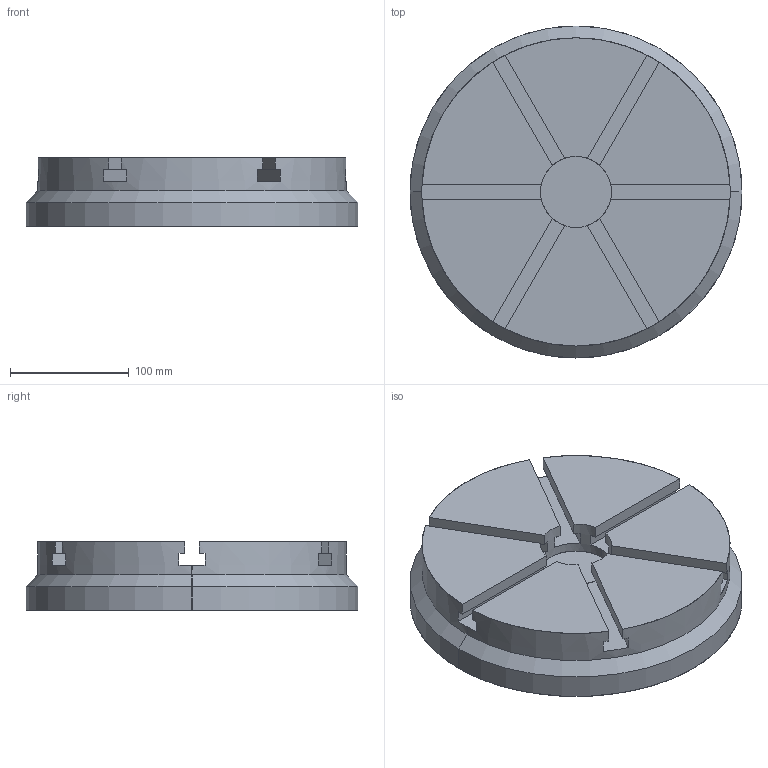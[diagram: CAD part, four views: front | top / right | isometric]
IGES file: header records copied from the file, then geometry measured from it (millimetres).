
Start section: SolidWorks IGES file using analytic representation for surfaces
Global section: file name: J:\Scolaire\BAC Pro\Epreuves professionnelles\E2\CD\Dossier Examinateurs\Dessins CN 5 axes\IGES\plateau.IGS; native system: SolidWorks 2005 by SolidWorks Corporation; preprocessor: SolidWorks 2005 by SolidWorks Corporation; author: Famille Couzi; date: 091204.123410; units: millimetre
Bounding box: 280 x 280 x 58 mm (x, y, z)
Surface area: 204656.2 mm2 (no closed solid volume)
Topology: 0 solids, 0 shells, 58 faces, 568 edges, 568 vertices
Faces by surface type: bspline 50, revolution 8
